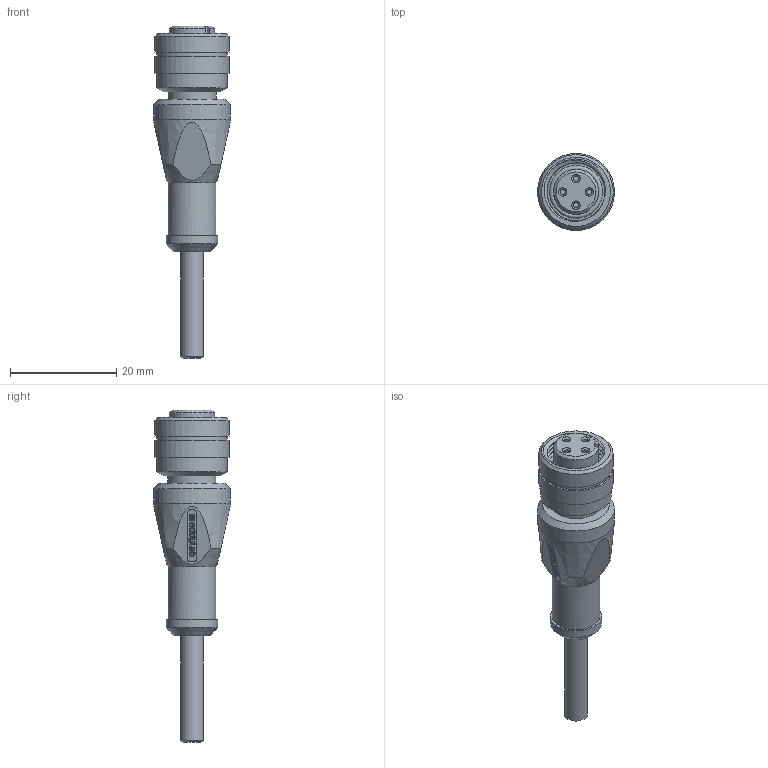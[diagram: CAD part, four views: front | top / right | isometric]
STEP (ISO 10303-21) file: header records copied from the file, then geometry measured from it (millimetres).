
FILE_DESCRIPTION( ( 'Unknown' ), '1' );
FILE_NAME( 'N:/Engineering/CAD/Kabel_Stecker/M12/K4PxM-S-M12.stp', 'Unknown', ( 'Unknown' ), ( 'Unknown' ), 'PSStep 17.0.49', 'Unknown', ' ' );
FILE_SCHEMA( ( 'AUTOMOTIVE_DESIGN { 1 0 10303 214 1 1 1 1 }' ) );
Length unit declared in the file: millimetre
Products named in the file (1): 1
Bounding box: 14.5 x 14.5 x 62.55 mm (x, y, z)
Volume: 4649.5 mm3; surface area: 3347.9 mm2
Topology: 1 solids, 1 shells, 488 faces, 1299 edges, 866 vertices
Faces by surface type: plane 344, cylinder 129, cone 12, bspline 2, torus 1
Full cylindrical faces by diameter (mm): 1 x4, 4.3 x1, 9 x1, 9.2 x1, 9.4 x1, 9.7 x1, 12 x1, 12.5 x1, 13.3 x2, 14 x2, 14.5 x1
Entity records: 21070 total; most frequent: CARTESIAN_POINT 4933, ORIENTED_EDGE 2510, DIRECTION 2492, EDGE_CURVE 1255, LINE 962, VECTOR 962, VERTEX_POINT 852, AXIS2_PLACEMENT_3D 765
